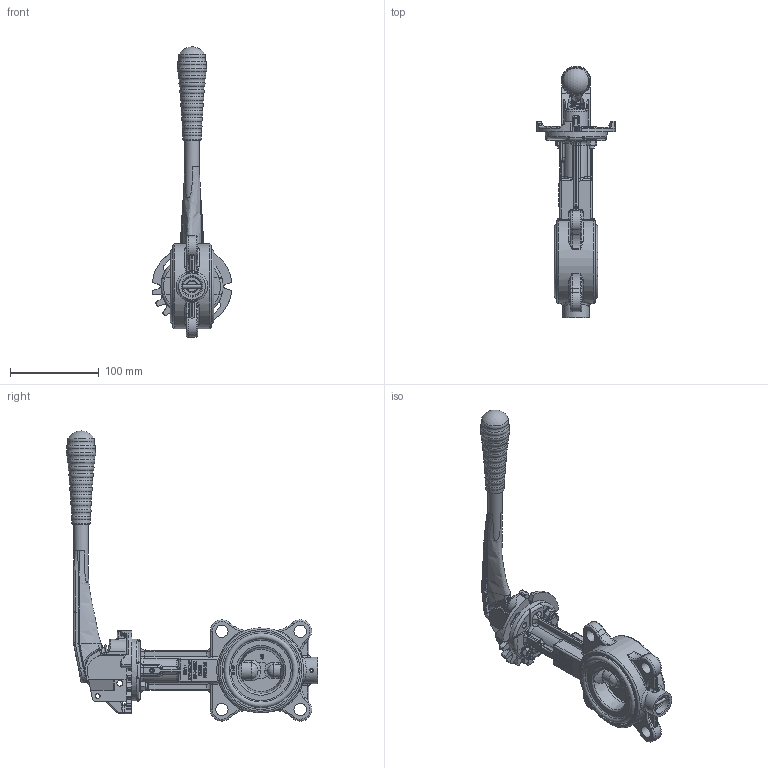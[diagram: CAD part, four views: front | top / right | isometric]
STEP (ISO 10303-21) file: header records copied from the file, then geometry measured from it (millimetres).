
FILE_DESCRIPTION((''),'2;1');
FILE_NAME('K:\Inventor\1 Artikel\10) Absperrklappen\10a) manuell\ABO Valve\894-GGG, 994T\894-GGG, DN50\894-GGG, DN50, 3D\894-GGG, DN50, PN10-16, HH, 3D.stp','2019-08-13T11:26:22',('claudia'),(''),'Autodesk Inventor 2013','Autodesk Inventor 2013','');
FILE_SCHEMA(('AUTOMOTIVE_DESIGN { 1 0 10303 214 1 1 1 1 }'));
Length unit declared in the file: millimetre
Products named in the file (1): Bauteil8
Bounding box: 89.17 x 283.75 x 327.35 mm (x, y, z)
Surface area: 140316.9 mm2
Topology: 11 solids, 12 shells, 2085 faces, 5479 edges, 3460 vertices
Faces by surface type: plane 744, bspline 678, cylinder 376, torus 173, cone 87, sphere 27
Full cylindrical faces by diameter (mm): 3.85 x1, 4 x2, 4.2 x1, 5 x2, 5.5 x2, 6 x4, 6.3 x2, 6.4 x2, 6.5 x2, 7 x4, 8.9 x2, 9.5 x1, 11.3 x2, 12 x5, 12.75 x2, 14 x4, 16 x4, 16.05 x1, 16.5 x2, 19 x1, 19.8 x1, 20 x1, 20.5 x1, 22 x2, 22.5 x1, 25 x1, 30 x1, 36 x1, 70 x1, 81.813 x2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
Entity records: 92486 total; most frequent: CARTESIAN_POINT 46435, ORIENTED_EDGE 10450, DIRECTION 7447, EDGE_CURVE 5227, VERTEX_POINT 3389, AXIS2_PLACEMENT_3D 2616, EDGE_LOOP 2359, VECTOR 2215
